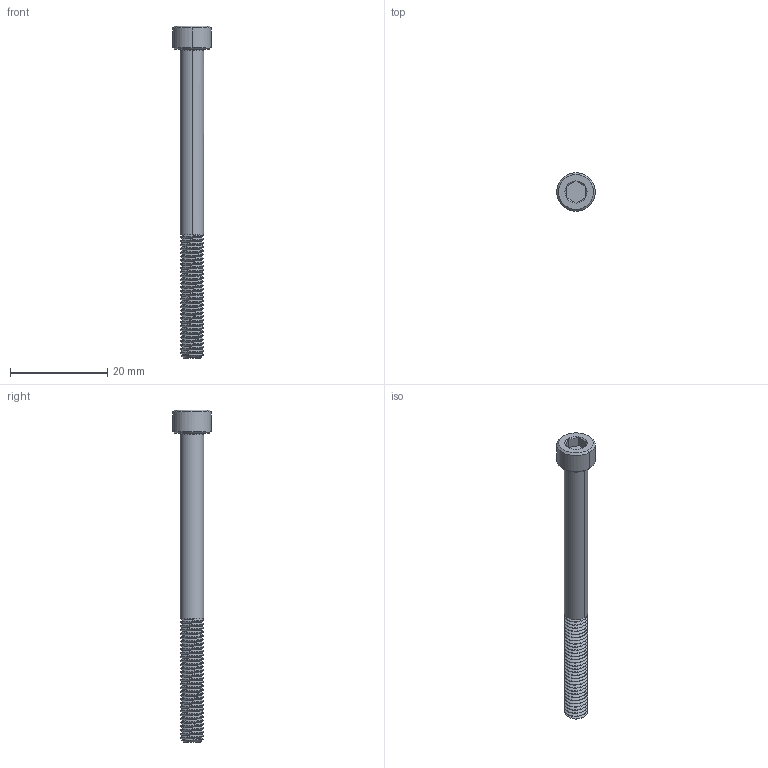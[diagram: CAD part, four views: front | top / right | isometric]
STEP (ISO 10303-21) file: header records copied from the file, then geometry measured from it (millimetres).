
FILE_DESCRIPTION (( 'STEP AP214' ), '1' );
FILE_NAME ('am-1024 10-32 x 2500 SHCS.STEP', '2023-09-08T18:10:43', ( '' ), ( '' ), 'SwSTEP 2.0', 'SolidWorks 2022', '' );
FILE_SCHEMA (( 'AUTOMOTIVE_DESIGN' ));
Length unit declared in the file: inch
Products named in the file (1): am-1024 10-32 x 2500 SHCS
Bounding box: 7.92 x 7.92 x 68.33 mm (x, y, z)
Volume: 1276.2 mm3; surface area: 1410.5 mm2
Topology: 1 solids, 1 shells, 96 faces, 257 edges, 165 vertices
Faces by surface type: cylinder 66, cone 16, plane 11, bspline 3
Entity records: 10089 total; most frequent: CARTESIAN_POINT 8065, ORIENTED_EDGE 514, DIRECTION 324, EDGE_CURVE 257, VERTEX_POINT 165, AXIS2_PLACEMENT_3D 118, EDGE_LOOP 98, FACE_OUTER_BOUND 96
